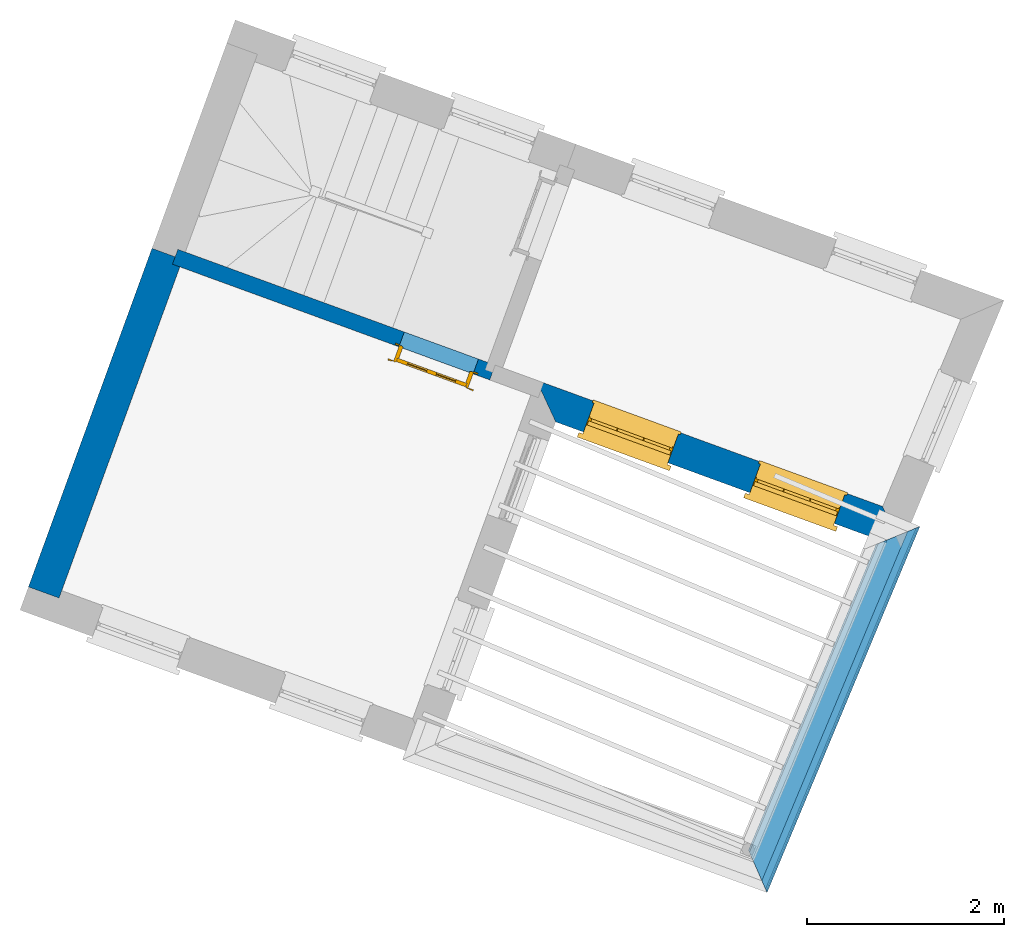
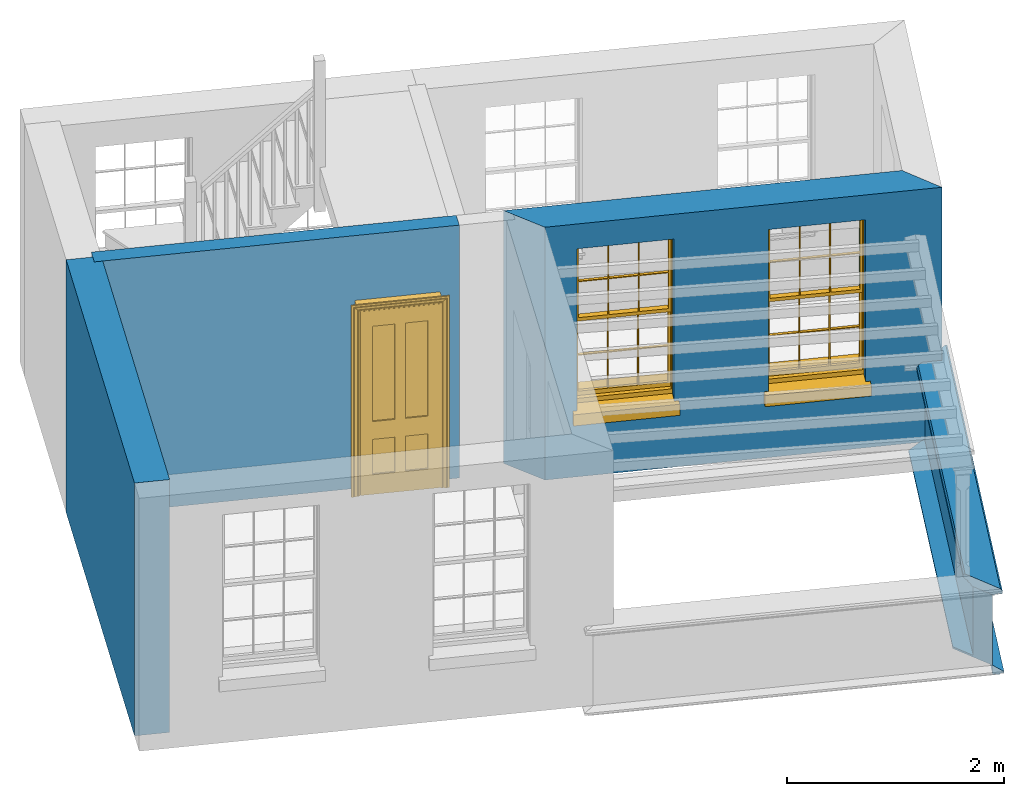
# One storey, part 3 of 7: 6 walls, 2 windows, 1 door, 3 openings.
"""IFC4 building model written with IfcOpenShell, lengths in metres."""

from ifc_helpers import new_model, si_unit, frame, origin, origin_with_axes, place, context, subcontext, project, spatial, polyline, outline, extrude, clip, halfspace, faceted_brep, source, transform, mapped, material, layer, layer_set, layer_usage, material_profile, profile_set, profile_usage, type_object, type_shapes, element, fill, save


model = new_model("IFC4")

# Units and contexts
model_context = context("Model", 3, world=origin_with_axes())
body_context = subcontext(model_context, "Body", "Model", "MODEL_VIEW")
ifc_project = project(units=[si_unit("PLANEANGLEUNIT", "RADIAN"), si_unit("MASSUNIT", "GRAM", prefix="KILO"), si_unit("FORCEUNIT", "NEWTON", prefix="KILO"), si_unit("LENGTHUNIT", "METRE"), si_unit("AREAUNIT", "SQUARE_METRE"), si_unit("VOLUMEUNIT", "CUBIC_METRE")], contexts=[model_context, model_context])

# Sites, building, storey
site_1_placement = place(None, origin_with_axes())
site_1 = spatial("IfcSite", under=ifc_project, at=site_1_placement, Name="Tamar")
site_2_placement = place(site_1_placement, origin_with_axes())
site_2 = spatial("IfcSite", under=site_1, at=site_2_placement, Name="Site plot-13", CompositionType="ELEMENT")
building_placement = place(None, origin_with_axes())
building = spatial("IfcBuilding", under=site_2, at=building_placement, Name="Building plot-13", CompositionType="ELEMENT")
storey_placement = place(None, frame((0.0, 0.0, 29.0), z_axis=(0.0, 0.0, 1.0), x_axis=(1.0, 0.0, 0.0)))
storey = spatial("IfcBuildingStorey", under=building, at=storey_placement, Name="plot-13 1", CompositionType="ELEMENT", Elevation=29.0)

# Wall, openings, windows
ifc_material_1 = material(Name="Masonry")
ifc_layer_1 = layer(ifc_material_1, 0.33, ventilated=False)
ifc_layer_set_1 = layer_set([ifc_layer_1], Name="exterior_0.08_0.25")
ifc_layer_usage_1 = layer_usage(ifc_layer_set_1, "AXIS2", "POSITIVE", -0.25)
wall_type_1 = type_object("IfcWallType", Name="exterior_0.08_0.25", PredefinedType="SOLIDWALL", material=ifc_layer_set_1)
wall_1_placement = place(storey_placement, frame((246.239933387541, 300.742010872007, 0.0), z_axis=(0.0, 0.0, 1.0), x_axis=(0.939432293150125, -0.342734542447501, 0.0)))
wall_1 = element("IfcWall", 1, at=wall_1_placement, inside=storey, type_object=wall_type_1, material=ifc_layer_usage_1, Name="exterior", context=body_context, shape_type="SweptSolid", body=[
    extrude(outline(polyline([(-0.0800000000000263, 0.0799999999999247), (0.249999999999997, -0.250000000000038), (3.97164468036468, -0.249999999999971), (3.65634232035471, 0.0799999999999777), (-0.0800000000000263, 0.0799999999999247)])), origin_with_axes(), (0.0, 0.0, 1.0), 2.85),
])
opening_1_placement = place(wall_1_placement, frame((0.55, 0.0, 0.75)))
opening_1 = element("IfcOpeningElement", 2, at=opening_1_placement, cuts=wall_1, Name="My Opening", ObjectType="Opening", context=body_context, shape_type="SweptSolid", body=[
    extrude(outline(polyline([(0.0, -0.269999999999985), (0.910000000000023, -0.269999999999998), (0.910000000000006, 1.09999999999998), (-1.64313007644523e-14, 1.1), (0.0, -0.269999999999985)])), origin_with_axes(), (0.0, 0.0, 1.0), 1.82),
])
opening_2_placement = place(wall_1_placement, frame((2.34458444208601, 0.0, 0.75)))
opening_2 = element("IfcOpeningElement", 3, at=opening_2_placement, cuts=wall_1, Name="My Opening", ObjectType="Opening", context=body_context, shape_type="SweptSolid", body=[
    extrude(outline(polyline([(0.0, -0.26999999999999), (0.909999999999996, -0.270000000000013), (0.909999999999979, 1.09999999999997), (-1.64313007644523e-14, 1.09999999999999), (0.0, -0.26999999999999)])), origin_with_axes(), (0.0, 0.0, 1.0), 1.82),
])
window_type = type_object("IfcWindowType", Name="sash_big", PartitioningType="DOUBLE_PANEL_HORIZONTAL", PredefinedType="NOTDEFINED")
shared_shape_1 = source(origin(), body_context, "Body", "Brep", [
    faceted_brep([(0.033125, 0.145, 0.975209), (0.01, 0.145, 0.975209), (0.033125, 0.145, 1.376042), (0.876875, 0.145, 0.975209), (0.876875, 0.145, 1.376042), (0.9, 0.145, 0.975209), (0.876875, 0.145, 1.386042), (0.876875, 0.145, 1.786875), (0.9, 0.145, 1.81), (0.033125, 0.145, 1.786875), (0.033125, 0.145, 1.386042), (0.01, 0.145, 1.81), (0.876875, 0.115, 1.376042), (0.876875, 0.115, 0.975209), (0.9, 0.115, 0.937083), (0.033125, 0.115, 1.786875), (0.01, 0.115, 1.81), (0.033125, 0.115, 1.386042), (0.01, 0.115, 0.937083), (0.033125, 0.115, 0.975209), (0.033125, 0.115, 1.376042), (0.876875, 0.115, 1.786875), (0.876875, 0.115, 1.386042), (0.9, 0.115, 1.81), (0.033125, 0.145, 0.937083), (0.01, 0.145, 0.937083), (0.033125, 0.145, 0.53625), (0.876875, 0.145, 0.937083), (0.876875, 0.145, 0.53625), (0.9, 0.145, 0.937083), (0.876875, 0.145, 0.52625), (0.876875, 0.145, 0.125417), (0.9, 0.145, 0.077167), (0.033125, 0.145, 0.125417), (0.033125, 0.145, 0.52625), (0.01, 0.145, 0.077167), (-0.0425, 0.0, 0.01), (-0.0425, -0.05, 0.001667), (0.0, 0.0, 0.01), (0.9525, 0.0, 0.01), (0.91, 0.0, 0.01), (0.9525, -0.05, 0.001667), (-0.02, 0.33, 0.077167), (0.0, 0.33, 0.077167), (-0.02, 0.36, 0.077167), (0.0, 0.19, 0.077167), (0.01, 0.19, 0.077167), (0.91, 0.19, 0.077167), (0.91, 0.33, 0.077167), (0.9, 0.19, 0.077167), (0.93, 0.33, 0.077167), (0.93, 0.36, 0.077167), (0.01, 0.175, 0.975209), (0.9, 0.175, 0.975209), (0.876875, 0.175, 0.125417), (0.876875, 0.175, 0.52625), (0.9, 0.175, 0.077167), (0.876875, 0.175, 0.53625), (0.876875, 0.175, 0.937083), (0.033125, 0.175, 0.125417), (0.01, 0.175, 0.077167), (0.033125, 0.175, 0.52625), (0.033125, 0.175, 0.937083), (0.033125, 0.175, 0.53625), (-0.02, 0.33, 0.052167), (-0.02, 0.36, 0.052167), (0.93, 0.36, 0.052167), (0.93, 0.33, 0.052167), (0.91, 0.33, 0.052167), (0.0, 0.33, 0.052167), (0.91, 0.1, 0.026667), (0.0, 0.1, 0.026667), (-0.0425, -0.05, -0.123333), (0.9525, -0.05, -0.123333), (-0.0425, 0.0, -0.123333), (0.9525, 0.0, -0.123333), (0.01, 0.19, 1.81), (0.9, 0.19, 1.81), (0.0, 0.19, 1.82), (0.91, 0.19, 1.82), (0.01, 0.1, 0.077167), (0.9, 0.1, 0.077167), (0.592292, 0.145, 0.125417), (0.592292, 0.175, 0.125417), (0.317708, 0.175, 0.125417), (0.317708, 0.145, 0.125417), (0.592292, 0.145, 0.53625), (0.317708, 0.145, 0.53625), (0.317708, 0.145, 0.52625), (0.592292, 0.145, 0.52625), (0.592292, 0.175, 0.53625), (0.317708, 0.175, 0.53625), (0.592292, 0.115, 1.386042), (0.592292, 0.145, 1.386042), (0.317708, 0.145, 1.386042), (0.317708, 0.115, 1.386042), (0.317708, 0.115, 1.376042), (0.592292, 0.115, 1.376042), (0.317708, 0.145, 1.376042), (0.592292, 0.145, 1.376042), (0.602292, 0.115, 1.376042), (0.592292, 0.115, 0.975209), (0.602292, 0.115, 0.975209), (0.602292, 0.145, 0.975209), (0.592292, 0.145, 0.975209), (0.602292, 0.145, 1.376042), (0.602292, 0.175, 0.53625), (0.602292, 0.145, 0.53625), (0.317708, 0.175, 0.52625), (0.307708, 0.175, 0.125417), (0.307708, 0.175, 0.52625), (0.602292, 0.175, 0.52625), (0.602292, 0.175, 0.125417), (0.592292, 0.175, 0.52625), (0.307708, 0.175, 0.53625), (0.317708, 0.175, 0.937083), (0.307708, 0.175, 0.937083), (0.602292, 0.175, 0.937083), (0.592292, 0.175, 0.937083), (0.307708, 0.145, 0.52625), (0.307708, 0.145, 0.125417), (0.307708, 0.145, 0.53625), (0.307708, 0.145, 0.937083), (0.592292, 0.145, 0.937083), (0.317708, 0.145, 0.937083), (0.602292, 0.145, 0.937083), (0.602292, 0.145, 0.52625), (0.602292, 0.145, 0.125417), (0.307708, 0.115, 1.386042), (0.307708, 0.115, 1.376042), (0.307708, 0.115, 0.975209), (0.317708, 0.115, 0.975209), (0.317708, 0.115, 1.786875), (0.307708, 0.115, 1.786875), (0.602292, 0.115, 1.786875), (0.592292, 0.115, 1.786875), (0.602292, 0.115, 1.386042), (0.602292, 0.145, 1.386042), (0.307708, 0.145, 1.386042), (0.307708, 0.145, 1.786875), (0.317708, 0.145, 1.786875), (0.592292, 0.145, 1.786875), (0.602292, 0.145, 1.786875), (0.307708, 0.145, 1.376042), (0.317708, 0.145, 0.975209), (0.307708, 0.145, 0.975209), (0.91, 0.1, 1.82), (0.9, 0.1, 1.81), (0.01, 0.1, 1.81), (0.0, 0.1, 1.82), (0.91, 0.0, 0.0), (0.0, 0.0, 0.0), (0.91, 0.33, 0.0), (0.0, 0.33, 0.0)], [[[0, 1, 2]], [[3, 4, 5]], [[6, 7, 8]], [[9, 10, 11]], [[12, 13, 14]], [[15, 16, 17]], [[18, 19, 20]], [[21, 22, 23]], [[24, 25, 26]], [[27, 28, 29]], [[30, 31, 32]], [[33, 34, 35]], [[14, 27, 29]], [[25, 24, 18]], [[36, 37, 38]], [[39, 40, 41]], [[42, 43, 44]], [[45, 46, 43]], [[47, 48, 49]], [[50, 51, 48]], [[1, 0, 52]], [[5, 53, 3]], [[54, 55, 56]], [[57, 58, 53]], [[59, 60, 61]], [[62, 63, 52]], [[48, 43, 46, 49]], [[51, 44, 43, 48]], [[64, 42, 44, 65]], [[65, 44, 51, 66]], [[66, 51, 50, 67]], [[65, 66, 68, 69]], [[60, 56, 49, 46]], [[70, 71, 38, 40]], [[37, 41, 40, 38]], [[37, 72, 73, 41]], [[74, 75, 73, 72]], [[8, 11, 76, 77]], [[76, 78, 79, 77]], [[32, 35, 80, 81]], [[81, 80, 71, 70]], [[82, 83, 84, 85]], [[86, 87, 88, 89]], [[86, 90, 91, 87]], [[92, 93, 94, 95]], [[92, 95, 96, 97]], [[96, 98, 99, 97]], [[100, 97, 101, 102]], [[103, 104, 99, 105]], [[97, 99, 104, 101]], [[102, 103, 105, 100]], [[28, 57, 106, 107]], [[108, 84, 109, 110]], [[111, 112, 83, 113]], [[114, 110, 61, 63]], [[90, 113, 108, 91]], [[115, 91, 114, 116]], [[117, 106, 90, 118]], [[111, 106, 57, 55]], [[119, 110, 109, 120]], [[34, 61, 110, 119]], [[89, 113, 83, 82]], [[88, 108, 113, 89]], [[85, 84, 108, 88]], [[121, 114, 63, 26]], [[122, 116, 114, 121]], [[123, 118, 90, 86]], [[87, 91, 115, 124]], [[107, 106, 117, 125]], [[126, 111, 55, 30]], [[127, 112, 111, 126]], [[126, 30, 28, 107]], [[88, 119, 120, 85]], [[126, 89, 82, 127]], [[125, 123, 86, 107]], [[121, 26, 34, 119]], [[124, 122, 121, 87]], [[128, 17, 20, 129]], [[96, 129, 130, 131]], [[132, 133, 128, 95]], [[134, 135, 92, 136]], [[100, 12, 22, 136]], [[137, 6, 4, 105]], [[94, 138, 139, 140]], [[137, 93, 141, 142]], [[99, 98, 94, 93]], [[143, 2, 10, 138]], [[144, 145, 143, 98]], [[129, 143, 145, 130]], [[20, 2, 143, 129]], [[131, 144, 98, 96]], [[128, 138, 10, 17]], [[133, 139, 138, 128]], [[135, 141, 93, 92]], [[95, 94, 140, 132]], [[22, 6, 137, 136]], [[136, 137, 142, 134]], [[100, 105, 4, 12]], [[107, 86, 89, 126]], [[106, 111, 113, 90]], [[91, 108, 110, 114]], [[87, 121, 119, 88]], [[97, 100, 136, 92]], [[129, 96, 95, 128]], [[98, 143, 138, 94]], [[105, 99, 93, 137]], [[131, 101, 104, 144]], [[124, 115, 118, 123]], [[132, 140, 141, 135]], [[120, 109, 59, 33]], [[15, 9, 139, 133]], [[134, 142, 7, 21]], [[31, 54, 112, 127]], [[36, 74, 72, 37]], [[39, 41, 73, 75]], [[18, 14, 101, 131]], [[23, 16, 132, 135]], [[83, 56, 60, 84]], [[52, 53, 118, 115]], [[53, 52, 144, 104]], [[11, 8, 141, 140]], [[14, 18, 124, 123]], [[2, 1, 11, 10]], [[8, 5, 4, 6]], [[57, 53, 56, 55]], [[60, 52, 63, 61]], [[26, 25, 35, 34]], [[32, 29, 28, 30]], [[14, 23, 22, 12]], [[18, 20, 17, 16]], [[19, 0, 2, 20]], [[17, 10, 9, 15]], [[12, 4, 3, 13]], [[21, 7, 6, 22]], [[27, 58, 57, 28]], [[30, 55, 54, 31]], [[33, 59, 61, 34]], [[26, 63, 62, 24]], [[5, 8, 77, 53]], [[76, 11, 1, 52]], [[46, 45, 78, 76]], [[49, 77, 79, 47]], [[70, 146, 147, 81]], [[71, 80, 148, 149]], [[19, 130, 145, 0]], [[102, 13, 3, 103]], [[116, 122, 24, 62]], [[29, 32, 81, 14]], [[80, 35, 25, 18]], [[60, 46, 76, 52]], [[77, 49, 56, 53]], [[23, 14, 81, 147]], [[16, 148, 80, 18]], [[35, 85, 120]], [[120, 33, 35]], [[127, 82, 32]], [[32, 31, 127]], [[32, 82, 85, 35]], [[102, 101, 14]], [[14, 13, 102]], [[18, 131, 130]], [[130, 19, 18]], [[134, 21, 23]], [[23, 135, 134]], [[16, 15, 133]], [[133, 132, 16]], [[11, 140, 139]], [[139, 9, 11]], [[142, 141, 8]], [[8, 7, 142]], [[23, 147, 148, 16]], [[146, 149, 148, 147]], [[52, 115, 116]], [[116, 62, 52]], [[118, 53, 117]], [[58, 117, 53]], [[27, 125, 117, 58]], [[56, 83, 112]], [[112, 54, 56]], [[109, 84, 60]], [[60, 59, 109]], [[125, 27, 14]], [[14, 123, 125]], [[122, 124, 18]], [[18, 24, 122]], [[145, 144, 52]], [[52, 0, 145]], [[103, 3, 53]], [[53, 104, 103]], [[79, 78, 149, 146]], [[78, 45, 71, 149]], [[146, 70, 47, 79]], [[150, 75, 74, 151]], [[68, 66, 67]], [[48, 68, 67, 50]], [[69, 64, 65]], [[42, 64, 69, 43]], [[69, 68, 152, 153]], [[70, 68, 48, 47]], [[150, 152, 68, 70]], [[43, 69, 71, 45]], [[69, 153, 151, 71]], [[152, 150, 151, 153]], [[38, 151, 74, 36]], [[71, 151, 38]], [[39, 75, 150, 40]], [[40, 150, 70]]]),
])
type_shapes(window_type, [shared_shape_1])
window_1_placement = place(storey_placement, frame((246.664082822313, 300.29986015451, 0.75), z_axis=(0.0, 0.0, 1.0), x_axis=(0.85488338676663, -0.311888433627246, 0.0)))
window_1 = element("IfcWindow", 4, at=window_1_placement, inside=storey, type_object=window_type, Name="toilet outside window", OverallHeight=1.82, OverallWidth=0.91, context=body_context, shape_type="MappedRepresentation", body=[
    mapped(shared_shape_1, transform((0.0, 0.0, 0.0), scale=1.0)),
])
fill(opening_1, window_1)
window_2_placement = place(storey_placement, frame((248.349973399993, 299.684794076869, 0.75), z_axis=(0.0, 0.0, 1.0), x_axis=(0.854883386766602, -0.311888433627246, 0.0)))
window_2 = element("IfcWindow", 5, at=window_2_placement, inside=storey, type_object=window_type, Name="toilet outside window", OverallHeight=1.82, OverallWidth=0.91, context=body_context, shape_type="MappedRepresentation", body=[
    mapped(shared_shape_1, transform((0.0, 0.0, 0.0), scale=1.0)),
])
fill(opening_2, window_2)

# Wall
ifc_material_2 = material(Name="Masonry")
ifc_layer_2 = layer(ifc_material_2, 0.33, ventilated=False)
ifc_layer_set_2 = layer_set([ifc_layer_2], Name="party_0.08_0.25")
ifc_layer_usage_2 = layer_usage(ifc_layer_set_2, "AXIS2", "POSITIVE", -0.25)
wall_type_2 = type_object("IfcWallType", Name="party_0.08_0.25", PredefinedType="SOLIDWALL", material=ifc_layer_set_2)
wall_2_placement = place(storey_placement, frame((242.534082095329, 302.094022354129, 0.0), z_axis=(0.0, 0.0, 1.0), x_axis=(-0.342734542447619, -0.939432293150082, 0.0)))
element("IfcWall", 6, at=wall_2_placement, inside=storey, type_object=wall_type_2, material=ifc_layer_usage_2, Name="party", context=body_context, shape_type="SweptSolid", body=[
    extrude(outline(polyline([(-5.24527496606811e-14, 0.0799999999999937), (9.09425738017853e-14, -0.249999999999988), (3.65149980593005, -0.250000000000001), (3.65149980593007, 0.0800000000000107), (-5.24527496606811e-14, 0.0799999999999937)])), origin_with_axes(), (0.0, 0.0, 1.0), 2.85),
])

# Wall, opening, door
ifc_material_3 = material(Name="Masonry")
ifc_layer_3 = layer(ifc_material_3, 0.16, ventilated=False)
ifc_layer_set_3 = layer_set([ifc_layer_3], Name="interior_0.08_0.08")
ifc_layer_usage_3 = layer_usage(ifc_layer_set_3, "AXIS2", "POSITIVE", -0.08)
wall_type_3 = type_object("IfcWallType", Name="interior_0.08_0.08", PredefinedType="SOLIDWALL", material=ifc_layer_set_3)
wall_3_placement = place(storey_placement, frame((245.748744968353, 300.921211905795, 0.0), z_axis=(0.0, 0.0, 1.0), x_axis=(-0.93943229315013, 0.342734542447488, 0.0)))
wall_3 = element("IfcWall", 7, at=wall_3_placement, inside=storey, type_object=wall_type_3, material=ifc_layer_usage_3, Name="interior", context=body_context, shape_type="SweptSolid", body=[
    extrude(outline(polyline([(-4.82679201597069e-15, 0.0799999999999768), (4.81882562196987e-15, -0.0799999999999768), (3.4219207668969, -0.0799999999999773), (3.42192076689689, 0.0799999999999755), (-4.82679201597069e-15, 0.0799999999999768)])), origin_with_axes(), (0.0, 0.0, 1.0), 2.85),
])
opening_3_placement = place(wall_3_placement, frame((0.180000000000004, 0.0, 0.0199999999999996)))
opening_3 = element("IfcOpeningElement", 8, at=opening_3_placement, cuts=wall_3, Name="My Opening", ObjectType="Opening", context=body_context, shape_type="SweptSolid", body=[
    extrude(outline(polyline([(0.0, -0.0999999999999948), (0.799999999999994, -0.0999999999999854), (0.800000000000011, 1.1), (1.71529457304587e-14, 1.09999999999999), (0.0, -0.0999999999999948)])), origin_with_axes(), (0.0, 0.0, 1.0), 2.1),
])
door_type = type_object("IfcDoorType", Name="door_inside", OperationType="SINGLE_SWING_LEFT", PredefinedType="NOTDEFINED")
shared_shape_2 = source(origin(), body_context, "Body", "Brep", [
    faceted_brep([(0.773, 0.33, 1.895), (0.66, 0.33, 1.895), (0.66, 0.33, 2.073), (0.773, 0.33, 2.073), (0.773, 0.33, 0.82), (0.66, 0.33, 0.82), (0.45, 0.33, 1.895), (0.45, 0.33, 2.073), (0.773, 0.33, 0.62), (0.66, 0.33, 0.62), (0.66, 0.315, 0.82), (0.66, 0.315, 1.895), (0.45, 0.315, 1.895), (0.35, 0.33, 1.895), (0.35, 0.33, 2.073), (0.773, 0.33, 0.225), (0.66, 0.33, 0.225), (0.45, 0.33, 0.62), (0.45, 0.33, 0.82), (0.45, 0.315, 0.82), (0.35, 0.33, 0.82), (0.14, 0.33, 2.073), (0.14, 0.33, 1.895), (0.773, 0.33, 0.0), (0.66, 0.33, 0.0), (0.66, 0.315, 0.225), (0.66, 0.315, 0.62), (0.45, 0.315, 0.62), (0.35, 0.33, 0.62), (0.35, 0.315, 0.82), (0.35, 0.315, 1.895), (0.14, 0.315, 1.895), (0.027, 0.33, 2.073), (0.027, 0.33, 1.895), (0.773, 0.292, 0.0), (0.66, 0.292, 0.0), (0.45, 0.33, 0.0), (0.45, 0.33, 0.225), (0.45, 0.315, 0.225), (0.35, 0.33, 0.225), (0.14, 0.33, 0.82), (0.14, 0.33, 0.62), (0.14, 0.315, 0.82), (0.027, 0.33, 0.82), (0.773, 0.292, 0.225), (0.66, 0.292, 0.225), (0.45, 0.292, 0.0), (0.35, 0.33, 0.0), (0.35, 0.315, 0.225), (0.35, 0.315, 0.62), (0.14, 0.315, 0.62), (0.027, 0.33, 0.62), (0.773, 0.292, 0.62), (0.66, 0.292, 0.62), (0.45, 0.292, 0.225), (0.35, 0.292, 0.0), (0.14, 0.33, 0.225), (0.14, 0.33, 0.0), (0.14, 0.315, 0.225), (0.027, 0.33, 0.225), (0.773, 0.292, 0.82), (0.66, 0.292, 0.82), (0.66, 0.307, 0.62), (0.66, 0.307, 0.225), (0.45, 0.307, 0.225), (0.35, 0.292, 0.225), (0.14, 0.292, 0.0), (0.027, 0.33, 0.0), (0.773, 0.292, 1.895), (0.66, 0.292, 1.895), (0.45, 0.292, 0.62), (0.45, 0.292, 0.82), (0.45, 0.307, 0.62), (0.35, 0.292, 0.62), (0.14, 0.292, 0.225), (0.027, 0.292, 0.0), (0.773, 0.292, 2.073), (0.66, 0.292, 2.073), (0.66, 0.307, 1.895), (0.66, 0.307, 0.82), (0.45, 0.307, 0.82), (0.35, 0.292, 0.82), (0.35, 0.307, 0.62), (0.35, 0.307, 0.225), (0.14, 0.307, 0.225), (0.027, 0.292, 0.225), (0.45, 0.292, 1.895), (0.45, 0.292, 2.073), (0.45, 0.307, 1.895), (0.35, 0.292, 1.895), (0.14, 0.292, 0.82), (0.14, 0.292, 0.62), (0.14, 0.307, 0.62), (0.027, 0.292, 0.62), (0.35, 0.292, 2.073), (0.35, 0.307, 1.895), (0.35, 0.307, 0.82), (0.14, 0.307, 0.82), (0.027, 0.292, 0.82), (0.14, 0.292, 2.073), (0.14, 0.292, 1.895), (0.14, 0.307, 1.895), (0.027, 0.292, 1.895), (0.027, 0.292, 2.073), (0.02, 0.335, 0.0), (0.005, 0.34, 0.0), (0.005, 0.34, 2.095), (0.02, 0.335, 2.08), (0.02, 0.33, 0.0), (0.0, 0.335, 0.0), (0.0, 0.335, 2.1), (0.795, 0.34, 2.095), (0.78, 0.335, 2.08), (0.02, 0.33, 2.08), (0.0, 0.33, 0.0), (-0.032, 0.345, 0.0), (-0.032, 0.345, 2.132), (0.8, 0.335, 2.1), (0.795, 0.34, 0.0), (0.78, 0.335, 0.0), (0.78, 0.33, 2.08), (0.04, 0.29, 0.0), (0.025, 0.29, 0.0), (0.025, 0.29, 2.075), (0.04, 0.29, 2.06), (-0.04, 0.34, 0.0), (-0.04, 0.34, 2.14), (0.832, 0.345, 2.132), (0.8, 0.335, 0.0), (0.78, 0.33, 0.0), (0.8, 0.33, 0.0), (0.86, 0.33, 0.0), (0.86, 0.33, 2.16), (0.8, 0.33, 2.1), (-0.06, 0.33, 2.16), (0.0, 0.33, 2.1), (-0.06, 0.33, 0.0), (-0.04, 0.345, 0.0), (-0.04, 0.345, 2.14), (0.84, 0.34, 2.14), (0.832, 0.345, 0.0), (0.84, 0.34, 0.0), (0.86, 0.345, 0.0), (0.86, 0.345, 2.16), (-0.06, 0.345, 2.16), (-0.06, 0.345, 0.0), (0.84, 0.345, 0.0), (0.84, 0.345, 2.14), (-0.025, 0.155, 0.0), (-0.025, 0.16, 0.0), (-0.025, 0.16, 2.125), (-0.025, 0.155, 2.125), (-0.017, 0.155, 0.0), (-0.017, 0.155, 2.117), (0.825, 0.16, 2.125), (0.825, 0.155, 2.125), (0.825, 0.155, 0.0), (0.845, 0.155, 0.0), (-0.045, 0.155, 2.145), (-0.045, 0.155, 0.0), (0.845, 0.155, 2.145), (0.015, 0.165, 0.0), (0.015, 0.165, 2.085), (0.817, 0.155, 2.117), (0.825, 0.16, 0.0), (0.845, 0.17, 0.0), (0.845, 0.17, 2.145), (-0.045, 0.17, 2.145), (-0.045, 0.17, 0.0), (0.02, 0.16, 0.0), (0.02, 0.16, 2.08), (0.785, 0.165, 2.085), (0.817, 0.155, 0.0), (0.8, 0.17, 0.0), (0.8, 0.17, 2.1), (0.0, 0.17, 2.1), (0.0, 0.17, 0.0), (0.035, 0.165, 0.0), (0.035, 0.165, 2.065), (0.78, 0.16, 2.08), (0.785, 0.165, 0.0), (0.775, 0.29, 2.075), (0.76, 0.29, 2.06), (0.035, 0.17, 2.065), (0.035, 0.17, 0.0), (0.765, 0.165, 2.065), (0.78, 0.16, 0.0), (0.765, 0.17, 0.0), (0.765, 0.17, 2.065), (0.765, 0.165, 0.0), (0.04, 0.17, 2.06), (0.04, 0.17, 0.0), (0.76, 0.17, 2.06), (0.76, 0.17, 0.0), (0.76, 0.29, 0.0), (0.775, 0.29, 0.0), (0.025, 0.33, 0.0), (0.025, 0.33, 2.075), (0.775, 0.33, 0.0), (0.775, 0.33, 2.075)], [[[0, 1, 2, 3]], [[1, 0, 4, 5]], [[1, 6, 7, 2]], [[8, 9, 5, 4]], [[1, 5, 10, 11]], [[6, 1, 11, 12]], [[6, 13, 14, 7]], [[15, 16, 9, 8]], [[9, 17, 18, 5]], [[5, 18, 19, 10]], [[10, 19, 12, 11]], [[18, 6, 12, 19]], [[18, 20, 13, 6]], [[21, 14, 13, 22]], [[23, 24, 16, 15]], [[9, 16, 25, 26]], [[17, 9, 26, 27]], [[17, 28, 20, 18]], [[13, 20, 29, 30]], [[22, 13, 30, 31]], [[32, 21, 22, 33]], [[34, 35, 24, 23]], [[24, 36, 37, 16]], [[16, 37, 38, 25]], [[25, 38, 27, 26]], [[37, 17, 27, 38]], [[37, 39, 28, 17]], [[40, 20, 28, 41]], [[20, 40, 42, 29]], [[31, 30, 29, 42]], [[40, 22, 31, 42]], [[33, 22, 40, 43]], [[35, 34, 44, 45]], [[35, 46, 36, 24]], [[36, 47, 39, 37]], [[28, 39, 48, 49]], [[41, 28, 49, 50]], [[43, 40, 41, 51]], [[45, 44, 52, 53]], [[46, 35, 45, 54]], [[46, 55, 47, 36]], [[56, 39, 47, 57]], [[39, 56, 58, 48]], [[50, 49, 48, 58]], [[56, 41, 50, 58]], [[51, 41, 56, 59]], [[53, 52, 60, 61]], [[45, 53, 62, 63]], [[54, 45, 63, 64]], [[55, 46, 54, 65]], [[55, 66, 57, 47]], [[59, 56, 57, 67]], [[61, 60, 68, 69]], [[70, 53, 61, 71]], [[53, 70, 72, 62]], [[72, 64, 63, 62]], [[70, 54, 64, 72]], [[65, 54, 70, 73]], [[65, 74, 66, 55]], [[67, 57, 66, 75]], [[69, 68, 76, 77]], [[61, 69, 78, 79]], [[71, 61, 79, 80]], [[73, 70, 71, 81]], [[65, 73, 82, 83]], [[74, 65, 83, 84]], [[74, 85, 75, 66]], [[86, 69, 77, 87]], [[69, 86, 88, 78]], [[88, 80, 79, 78]], [[86, 71, 80, 88]], [[81, 71, 86, 89]], [[73, 81, 90, 91]], [[73, 91, 92, 82]], [[83, 82, 92, 84]], [[91, 74, 84, 92]], [[91, 93, 85, 74]], [[89, 86, 87, 94]], [[81, 89, 95, 96]], [[90, 81, 96, 97]], [[90, 98, 93, 91]], [[94, 99, 100, 89]], [[89, 100, 101, 95]], [[101, 97, 96, 95]], [[100, 90, 97, 101]], [[100, 102, 98, 90]], [[99, 103, 102, 100]], [[32, 103, 99, 21]], [[102, 103, 32, 33]], [[98, 102, 33, 43]], [[21, 99, 94, 14]], [[94, 87, 7, 14]], [[7, 87, 77, 2]], [[76, 3, 2, 77]], [[43, 51, 93, 98]], [[51, 59, 85, 93]], [[67, 75, 85, 59]], [[34, 23, 15, 44]], [[44, 15, 8, 52]], [[52, 8, 4, 60]], [[0, 68, 60, 4]], [[0, 3, 76, 68]], [[104, 105, 106, 107]], [[104, 108, 109, 105]], [[105, 109, 110, 106]], [[107, 106, 111, 112]], [[107, 113, 108, 104]], [[114, 109, 108]], [[109, 115, 116, 110]], [[106, 110, 117, 111]], [[112, 111, 118, 119]], [[113, 107, 112, 120]], [[121, 122, 123, 124]], [[115, 109, 114, 125]], [[115, 125, 126, 116]], [[110, 116, 127, 117]], [[111, 117, 128, 118]], [[118, 128, 129, 119]], [[120, 112, 119, 129]], [[130, 129, 128]], [[130, 131, 132, 133]], [[133, 132, 134, 135]], [[135, 134, 136, 114]], [[136, 125, 114]], [[125, 137, 138, 126]], [[116, 126, 139, 127]], [[117, 127, 140, 128]], [[141, 130, 128, 140]], [[131, 130, 141]], [[131, 142, 143, 132]], [[132, 143, 144, 134]], [[134, 144, 145, 136]], [[137, 125, 136, 145]], [[143, 142, 146]], [[143, 146, 147]], [[137, 145, 144]], [[143, 147, 138]], [[138, 137, 144]], [[143, 138, 144]], [[126, 138, 147, 139]], [[127, 139, 141, 140]], [[142, 131, 141, 146]], [[139, 147, 146, 141]], [[148, 149, 150, 151]], [[149, 152, 153, 150]], [[151, 150, 154, 155]], [[155, 156, 157]], [[158, 159, 148]], [[158, 148, 151]], [[155, 157, 160]], [[158, 151, 155]], [[155, 160, 158]], [[152, 161, 162, 153]], [[150, 153, 163, 154]], [[155, 154, 164, 156]], [[156, 164, 165, 157]], [[157, 165, 166, 160]], [[160, 166, 167, 158]], [[158, 167, 168, 159]], [[161, 169, 170, 162]], [[153, 162, 171, 163]], [[154, 163, 172, 164]], [[165, 164, 173]], [[165, 173, 174, 166]], [[166, 174, 175, 167]], [[167, 175, 176, 168]], [[169, 177, 178, 170]], [[162, 170, 179, 171]], [[163, 171, 180, 172]], [[172, 180, 173, 164]], [[124, 123, 181, 182]], [[183, 178, 177, 184]], [[170, 178, 185, 179]], [[171, 179, 186, 180]], [[187, 173, 180]], [[185, 188, 187, 189]], [[188, 185, 178, 183]], [[179, 185, 189, 186]], [[189, 187, 180, 186]], [[190, 183, 184, 191]], [[192, 188, 183, 190]], [[191, 184, 122, 121]], [[124, 190, 191, 121]], [[193, 187, 188, 192]], [[182, 192, 190, 124]], [[184, 176, 122]], [[194, 195, 187, 193]], [[192, 182, 194, 193]], [[161, 176, 184]], [[114, 108, 122, 176]], [[173, 187, 195]], [[152, 149, 176, 161]], [[169, 161, 184, 177]], [[196, 122, 108]], [[176, 175, 135, 114]], [[173, 195, 129, 130]], [[176, 149, 168]], [[123, 122, 196, 197]], [[196, 108, 113, 197]], [[175, 174, 133, 135]], [[198, 129, 195]], [[133, 174, 173, 130]], [[159, 168, 149, 148]], [[181, 123, 197, 199]], [[197, 113, 120, 199]], [[199, 120, 129, 198]], [[195, 181, 199, 198]], [[195, 194, 182, 181]]]),
])
type_shapes(door_type, [shared_shape_2])
door_placement = place(storey_placement, frame((245.613920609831, 301.076847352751, 0.0199999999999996), z_axis=(0.0, 0.0, 1.0), x_axis=(-0.751545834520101, 0.274187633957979, 0.0)))
door = element("IfcDoor", 9, at=door_placement, inside=storey, type_object=door_type, Name="bedroom inside door", OverallHeight=2.1, OverallWidth=0.8, context=body_context, shape_type="MappedRepresentation", body=[
    mapped(shared_shape_2, transform((0.0, 0.0, 0.0), scale=1.0)),
])
fill(opening_3, door)

# Walls
ifc_material_profile_1 = material_profile(None, outline(polyline([(0.25, 0.0), (0.25, 0.795), (0.09, 0.795), (0.09, 0.02), (-0.08, 0.02), (-0.08, 0.0), (0.25, 0.0)])))
ifc_profile_set_1 = profile_set([ifc_material_profile_1])
ifc_profile_usage_1 = profile_usage(ifc_profile_set_1)
wall_type_4 = type_object("IfcWallType", Name="parapet_0", PredefinedType="PARAPET", material=ifc_profile_set_1)
wall_4_placement = place(storey_placement, frame((250.012380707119, 300.099427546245, 0.0), z_axis=(-0.385150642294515, -0.922853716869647, 0.0), x_axis=(0.922853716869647, -0.385150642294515, 0.0)))
element("IfcWall", 10, at=wall_4_placement, inside=storey, type_object=wall_type_4, material=ifc_profile_usage_1, Name="parapet_0", context=body_context, shape_type="Clipping", body=[
    clip(clip(extrude(outline(polyline([(0.25, 0.0), (0.25, 0.795), (0.09, 0.795), (0.09, 0.02), (-0.08, 0.02), (-0.08, 0.0), (0.25, 0.0)])), origin_with_axes(), (0.0, 0.0, 1.0), 5.34529029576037), halfspace(frame((0.0, 0.0, 4.34529029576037), z_axis=(0.690822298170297, 0.0, -0.723024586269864), x_axis=(0.0, 1.0, 0.0)), True)), halfspace(frame((0.0, 0.0, 1.0), z_axis=(-0.707106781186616, 0.0, -0.707106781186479), x_axis=(0.0, 1.0, 0.0)), False)),
])
ifc_material_profile_2 = material_profile(None, outline(polyline([(0.265, 0.795), (0.268, 0.807), (0.274, 0.816), (0.283, 0.822), (0.295, 0.825), (0.295, 0.84), (0.305, 0.84), (0.317, 0.842), (0.326, 0.849), (0.333, 0.858), (0.335, 0.87), (0.333, 0.882), (0.326, 0.891), (0.317, 0.898), (0.305, 0.9), (0.035, 0.9), (0.023, 0.898), (0.014, 0.891), (0.007, 0.882), (0.005, 0.87), (0.007, 0.858), (0.014, 0.849), (0.023, 0.842), (0.035, 0.84), (0.045, 0.84), (0.045, 0.825), (0.057, 0.822), (0.066, 0.816), (0.072, 0.807), (0.075, 0.795), (0.265, 0.795)])))
ifc_profile_set_2 = profile_set([ifc_material_profile_2])
ifc_profile_usage_2 = profile_usage(ifc_profile_set_2)
wall_type_5 = type_object("IfcWallType", Name="parapet_1", PredefinedType="PARAPET", material=ifc_profile_set_2)
wall_5_placement = place(storey_placement, frame((250.012380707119, 300.099427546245, 0.0), z_axis=(-0.385150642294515, -0.922853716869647, 0.0), x_axis=(0.922853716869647, -0.385150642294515, 0.0)))
element("IfcWall", 11, at=wall_5_placement, inside=storey, type_object=wall_type_5, material=ifc_profile_usage_2, Name="parapet_1", context=body_context, shape_type="Clipping", body=[
    clip(clip(extrude(outline(polyline([(0.265, 0.795), (0.268, 0.807), (0.274, 0.816), (0.283, 0.822), (0.295, 0.825), (0.295, 0.84), (0.305, 0.84), (0.317, 0.842), (0.326, 0.849), (0.333, 0.858), (0.335, 0.87), (0.333, 0.882), (0.326, 0.891), (0.317, 0.898), (0.305, 0.9), (0.035, 0.9), (0.023, 0.898), (0.014, 0.891), (0.007, 0.882), (0.005, 0.87), (0.007, 0.858), (0.014, 0.849), (0.023, 0.842), (0.035, 0.84), (0.045, 0.84), (0.045, 0.825), (0.057, 0.822), (0.066, 0.816), (0.072, 0.807), (0.075, 0.795), (0.265, 0.795)])), origin_with_axes(), (0.0, 0.0, 1.0), 5.34529029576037), halfspace(frame((0.0, 0.0, 4.34529029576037), z_axis=(0.690822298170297, 0.0, -0.723024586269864), x_axis=(0.0, 1.0, 0.0)), True)), halfspace(frame((0.0, 0.0, 1.0), z_axis=(-0.707106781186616, 0.0, -0.707106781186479), x_axis=(0.0, 1.0, 0.0)), False)),
])
ifc_material_profile_3 = material_profile(None, outline(polyline([(0.25, -0.1), (0.265, -0.1), (0.265, -0.085), (0.278, -0.084), (0.289, -0.081), (0.301, -0.074), (0.309, -0.065), (0.315, -0.055), (0.324, -0.044), (0.334, -0.038), (0.345, -0.035), (0.345, -0.015), (0.25, 0.0), (0.25, -0.1)])))
ifc_profile_set_3 = profile_set([ifc_material_profile_3])
ifc_profile_usage_3 = profile_usage(ifc_profile_set_3)
wall_type_6 = type_object("IfcWallType", Name="parapet_2", PredefinedType="PARAPET", material=ifc_profile_set_3)
wall_6_placement = place(storey_placement, frame((250.012380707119, 300.099427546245, 0.0), z_axis=(-0.385150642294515, -0.922853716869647, 0.0), x_axis=(0.922853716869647, -0.385150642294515, 0.0)))
element("IfcWall", 12, at=wall_6_placement, inside=storey, type_object=wall_type_6, material=ifc_profile_usage_3, Name="parapet_2", context=body_context, shape_type="Clipping", body=[
    clip(clip(extrude(outline(polyline([(0.25, -0.1), (0.265, -0.1), (0.265, -0.085), (0.278, -0.084), (0.289, -0.081), (0.301, -0.074), (0.309, -0.065), (0.315, -0.055), (0.324, -0.044), (0.334, -0.038), (0.345, -0.035), (0.345, -0.015), (0.25, 0.0), (0.25, -0.1)])), origin_with_axes(), (0.0, 0.0, 1.0), 5.34529029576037), halfspace(frame((0.0, 0.0, 4.34529029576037), z_axis=(0.690822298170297, 0.0, -0.723024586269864), x_axis=(0.0, 1.0, 0.0)), True)), halfspace(frame((0.0, 0.0, 1.0), z_axis=(-0.707106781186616, 0.0, -0.707106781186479), x_axis=(0.0, 1.0, 0.0)), False)),
])

save(model, "model.ifc")
